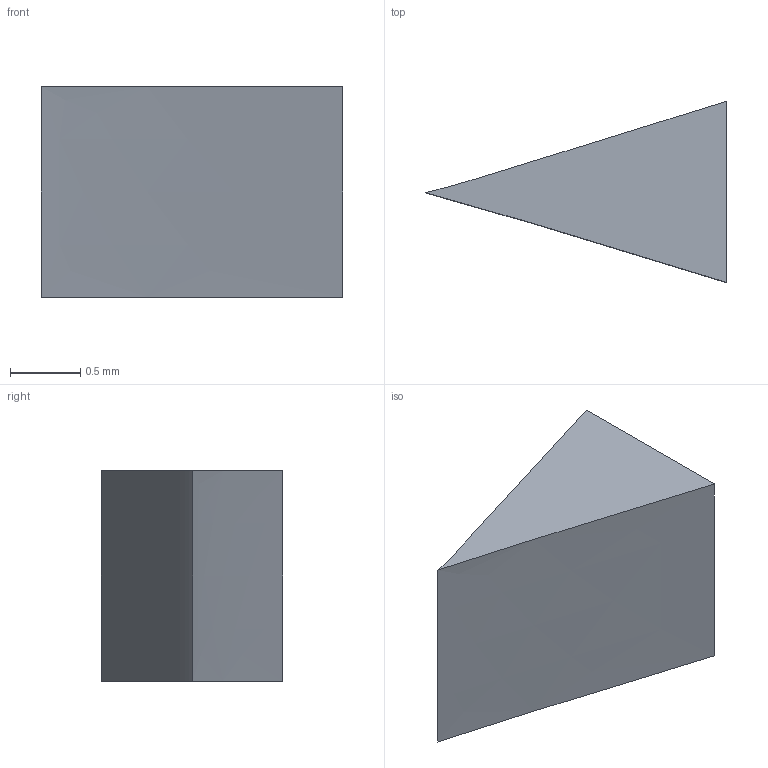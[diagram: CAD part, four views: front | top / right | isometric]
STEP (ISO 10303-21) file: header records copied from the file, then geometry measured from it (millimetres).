
FILE_DESCRIPTION(('STEP AP242 Edition 2','STEP AP242 Edition 2''CAx-IF Rec.Pracs.---Representation and Presentation of Product Manufacturing Information (PMI)---4.0---2014-10-13','STEP AP242 Edition 2''CAx-IF Rec.Pracs.---Representation and Presentation of Product Manufacturing Information (PMI)---4.0---2014-10-13''CAx-IF Rec.Pracs.---3D Tessellated Geometry---0.4---2014-09-14','STEP AP242 Edition 2''CAx-IF Rec.Pracs.---Representation and Presentation of Product Manufacturing Information (PMI)---4.0---2014-10-13''CAx-IF Rec.Pracs.---3D Tessellated Geometry---0.4---2014-09-14''2;1','STEP AP242 Edition 2''CAx-IF Rec.Pracs.---Representation and Presentation of Product Manufacturing Information (PMI)---4.0---2014-10-13''CAx-IF Rec.Pracs.---3D Tessellated Geometry---0.4---2014-09-14''2;1''CAx-IF Rec.Pracs.---User Defined Attributes---1.5---2016-08-15'),'2;1');
FILE_NAME('/vol/tmp/translate-17016349319801364938/Part Studio 2 - Part 6.step','2026-03-29T21:16:22',(''),(''),'ST-DEVELOPER v20','ONSHAPE BY PTC INC, 1.212',' ');
FILE_SCHEMA(('AP242_MANAGED_MODEL_BASED_3D_ENGINEERING_MIM_LF { 1 0 10303 442 3 1 4 }'));
Length unit declared in the file: metre
Products named in the file (1): Part 6
Bounding box: 2.15 x 1.29 x 1.5 mm (x, y, z)
Volume: 2 mm3; surface area: 11.4 mm2
Topology: 1 solids, 1 shells, 6 faces, 12 edges, 8 vertices
Faces by surface type: plane 3, cylinder 2, bspline 1
Entity records: 186 total; most frequent: CARTESIAN_POINT 38, DIRECTION 26, ORIENTED_EDGE 24, EDGE_CURVE 12, AXIS2_PLACEMENT_3D 10, VERTEX_POINT 8, LINE 6, VECTOR 6
